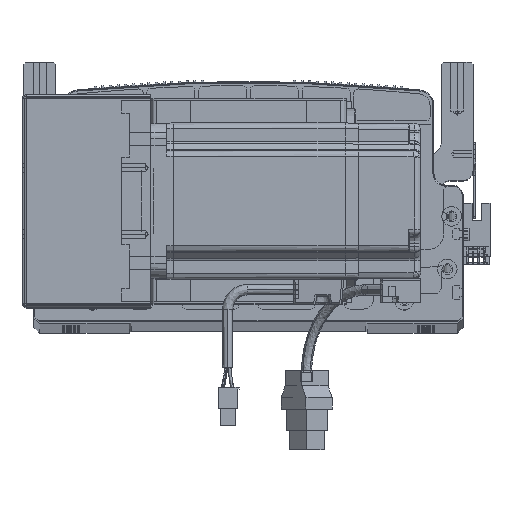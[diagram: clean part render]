
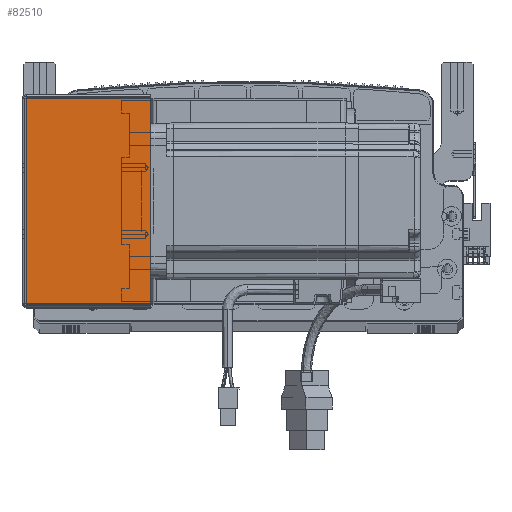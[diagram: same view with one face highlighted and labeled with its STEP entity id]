
A CAD part, top view. The second image highlights one B-rep face of the part: STEP entity #82510.
In plain terms, the highlighted planar face has unit normal (0, 0, 1) as drawn and (0, 0, -1) by its records, which use the part's own axes.
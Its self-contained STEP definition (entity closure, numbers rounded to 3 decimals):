
#324 = ORIENTED_EDGE ( 'NONE', *, *, #71785, .F. ) ;
#1449 = PLANE ( 'NONE',  #58173 ) ;
#4400 = DIRECTION ( 'NONE',  ( 1., 0., 0. ) ) ;
#5018 = ORIENTED_EDGE ( 'NONE', *, *, #31176, .F. ) ;
#8673 = DIRECTION ( 'NONE',  ( 1., 0., 0. ) ) ;
#16632 = CARTESIAN_POINT ( 'NONE',  ( 0., 0.707, -205.5 ) ) ;
#19571 = ORIENTED_EDGE ( 'NONE', *, *, #72841, .T. ) ;
#22712 = LINE ( 'NONE', #16632, #97191 ) ;
#24306 = VERTEX_POINT ( 'NONE', #97599 ) ;
#27760 = EDGE_LOOP ( 'NONE', ( #5018, #95570, #19571, #324 ) ) ;
#28571 = EDGE_CURVE ( 'NONE', #43254, #93159, #59891, .T. ) ;
#31176 = EDGE_CURVE ( 'NONE', #43254, #24306, #91463, .T. ) ;
#33602 = VECTOR ( 'NONE', #77528, 1000. ) ;
#36082 = CARTESIAN_POINT ( 'NONE',  ( 64.5, 0.707, -205.5 ) ) ;
#38285 = CARTESIAN_POINT ( 'NONE',  ( 64.5, 105.293, -205.5 ) ) ;
#41821 = DIRECTION ( 'NONE',  ( 0., -1., 0. ) ) ;
#43254 = VERTEX_POINT ( 'NONE', #58072 ) ;
#43916 = FACE_OUTER_BOUND ( 'NONE', #27760, .T. ) ;
#53878 = CARTESIAN_POINT ( 'NONE',  ( 0., 0., -205.5 ) ) ;
#58072 = CARTESIAN_POINT ( 'NONE',  ( 0.737, 105.293, -205.5 ) ) ;
#58173 = AXIS2_PLACEMENT_3D ( 'NONE', #53878, #76332, #8673 ) ;
#59891 = LINE ( 'NONE', #95792, #83601 ) ;
#62663 = CARTESIAN_POINT ( 'NONE',  ( 0.737, 0., -205.5 ) ) ;
#71785 = EDGE_CURVE ( 'NONE', #24306, #94366, #22712, .T. ) ;
#71871 = CARTESIAN_POINT ( 'NONE',  ( 64.5, 0., -205.5 ) ) ;
#72841 = EDGE_CURVE ( 'NONE', #93159, #94366, #79154, .T. ) ;
#76332 = DIRECTION ( 'NONE',  ( 0., 0., 1. ) ) ;
#77528 = DIRECTION ( 'NONE',  ( 0., -1., 0. ) ) ;
#79154 = LINE ( 'NONE', #71871, #80380 ) ;
#80380 = VECTOR ( 'NONE', #41821, 1000. ) ;
#82510 = ADVANCED_FACE ( 'NONE', ( #43916 ), #1449, .F. ) ;
#83601 = VECTOR ( 'NONE', #4400, 1000. ) ;
#91463 = LINE ( 'NONE', #62663, #33602 ) ;
#91928 = DIRECTION ( 'NONE',  ( 1., 0., 0. ) ) ;
#93159 = VERTEX_POINT ( 'NONE', #38285 ) ;
#94366 = VERTEX_POINT ( 'NONE', #36082 ) ;
#95570 = ORIENTED_EDGE ( 'NONE', *, *, #28571, .T. ) ;
#95792 = CARTESIAN_POINT ( 'NONE',  ( 0., 105.293, -205.5 ) ) ;
#97191 = VECTOR ( 'NONE', #91928, 1000. ) ;
#97599 = CARTESIAN_POINT ( 'NONE',  ( 0.737, 0.707, -205.5 ) ) ;
